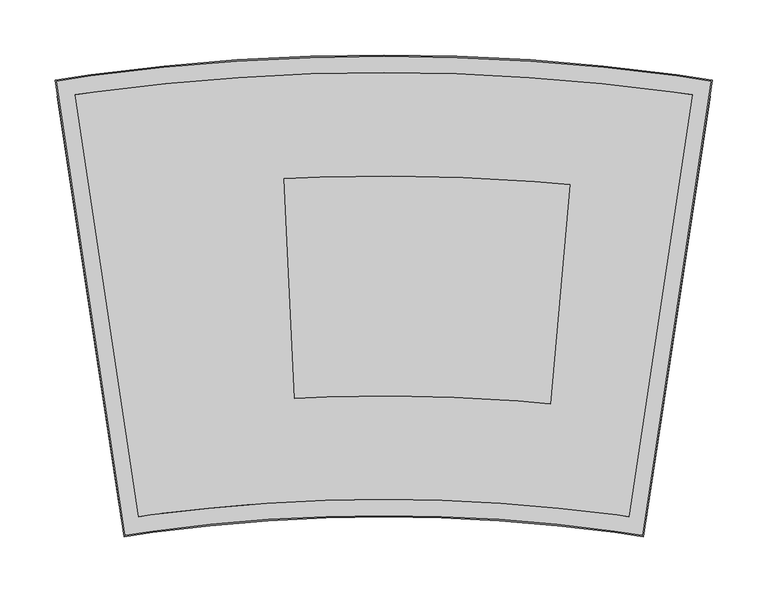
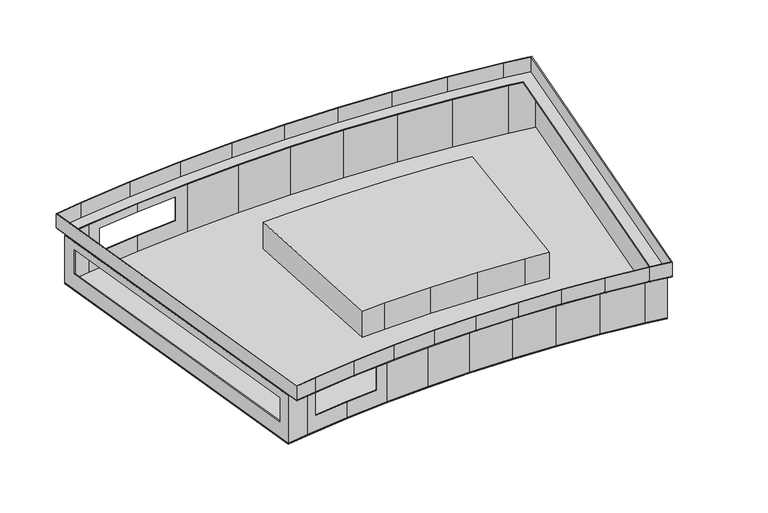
"""IFC4 building model written with IfcOpenShell, lengths in millimetres: proxy geometry, Techno_Конвектор встраиваемый_Usual_KVZ_R-420_85 : KVZ R 420-85_Л."""

from ifc_helpers import new_model, si_unit, frame, origin, place, context, project, spatial, polyline, ellipse_curve, outline, extrude, faceted_brep, source, transform, mapped, element, save
from ifc_brep_helpers import plane_surface, cylinder_surface, advanced_brep


def mechanical_equipment_4430c26b(model_context):
    return source(origin(), model_context, "Body", "SolidModel", [
        extrude(outline(polyline([(669.2728778, 92.4044977), (651.360404, -106.7917455), (622.4134935, -104.1887306), (564.3748988, -100.9764443), (506.2601705, -99.7617004), (448.1380385, -100.5459354), (419.10764, -101.9370787), (409.5345797, 97.8336812), (442.0005282, 99.3894568), (507.0010191, 100.2665008), (571.99323, 98.9080002), (636.9002974, 95.3155616), (669.2728778, 92.4044977)])), frame((0.0, 0.0, -65.3), z_axis=(0.0, 0.0, 1.0), x_axis=(1.0, 0.0, 0.0)), (0.0, 0.0, 1.0), 35.0),
        extrude(outline(polyline([(796.6645806, 172.9083439), (738.3239337, -213.1078849), (712.0399647, -209.1354515), (659.2364485, -202.9469383), (606.2560194, -198.5216541), (553.1575389, -195.8645154), (500.0, -194.9784744), (446.8424611, -195.8645154), (393.7439806, -198.5216541), (340.7635515, -202.9469383), (287.9600353, -209.1354515), (261.6760663, -213.1078849), (203.3354194, 172.9083439), (236.053588, 177.8532115), (301.7831718, 185.5566454), (367.7329761, 191.0652197), (433.8297302, 194.3728142), (500.0, 195.4757541), (566.1702698, 194.3728142), (632.2670239, 191.0652197), (698.2168282, 185.5566454), (763.946412, 177.8532115), (796.6645806, 172.9083439)])), frame((0.0, 0.0, -85.0), z_axis=(0.0, 0.0, 1.0), x_axis=(1.0, 0.0, 0.0)), (0.0, 0.0, 1.0), 1.2),
        faceted_brep([(203.3354194, 172.9083439, -20.5), (203.3354194, 172.9083439, -85.0), (261.6760663, -213.1078849, -85.0), (261.6760663, -213.1078849, -20.5), (205.8310362, 156.3958669, -31.0), (259.4793258, -198.5729501, -31.0), (259.4793258, -198.5729501, -63.0), (205.8310362, 156.3958669, -63.0), (738.3239337, -213.1078849, -20.5), (738.3239337, -213.1078849, -85.0), (796.6645806, 172.9083439, -85.0), (796.6645806, 172.9083439, -20.5), (204.7012705, 171.9011444, -85.0), (204.7012705, 171.9011444, -20.5), (262.6832659, -211.7420339, -20.5), (262.6832659, -211.7420339, -85.0), (260.6658511, -198.3936243, -31.0), (207.0175615, 156.5751927, -31.0), (207.0175615, 156.5751927, -63.0), (260.6658511, -198.3936243, -63.0), (737.3167341, -211.7420339, -85.0), (737.3167341, -211.7420339, -20.5), (795.2987295, 171.9011444, -20.5), (795.2987295, 171.9011444, -85.0), (287.9600353, -209.1354515, -85.0), (287.9600353, -209.1354515, -20.5), (287.7807096, -207.9489262, -20.5), (287.7807096, -207.9489262, -85.0), (340.7635515, -202.9469383, -85.0), (340.7635515, -202.9469383, -63.0), (298.655358, -207.8819716, -63.0), (298.655358, -207.8819716, -31.0), (340.7635515, -202.9469383, -31.0), (340.7635515, -202.9469383, -20.5), (340.6238688, -201.7550957, -20.5), (340.6238688, -201.7550957, -31.0), (298.5038571, -206.6915141, -31.0), (298.5038571, -206.6915141, -63.0), (340.6238688, -201.7550957, -63.0), (340.6238688, -201.7550957, -85.0), (393.7439806, -198.5216541, -85.0), (393.7439806, -198.5216541, -20.5), (381.0009219, -199.5860406, -31.0), (381.0009219, -199.5860406, -63.0), (393.6440963, -197.3258183, -20.5), (393.6440963, -197.3258183, -85.0), (380.9113816, -198.3893409, -63.0), (380.9113816, -198.3893409, -31.0), (446.8424611, -195.8645154, -85.0), (446.8424611, -195.8645154, -20.5), (446.7824861, -194.6660151, -20.5), (446.7824861, -194.6660151, -85.0), (500.0, -194.9784744, -85.0), (500.0, -194.9784744, -20.5), (499.9800009, -193.778641, -20.5), (499.9800009, -193.778641, -85.0), (553.1575389, -195.8645154, -85.0), (553.1575389, -195.8645154, -20.5), (553.177538, -194.664682, -20.5), (553.177538, -194.664682, -85.0), (606.2560194, -198.5216541, -85.0), (606.2560194, -198.5216541, -20.5), (606.3159944, -197.3231537, -20.5), (606.3159944, -197.3231537, -85.0), (659.2364485, -202.9469383, -85.0), (659.2364485, -202.9469383, -20.5), (659.3363328, -201.7511025, -20.5), (659.3363328, -201.7511025, -85.0), (712.0399647, -209.1354515, -85.0), (712.0399647, -209.1354515, -20.5), (712.1796473, -207.9436089, -20.5), (712.1796473, -207.9436089, -85.0), (763.946412, 177.8532115, -85.0), (763.946412, 177.8532115, -20.5), (763.7670862, 176.6666862, -20.5), (763.7670862, 176.6666862, -85.0), (698.2168282, 185.5566454, -85.0), (698.2168282, 185.5566454, -20.5), (698.0771456, 184.3648028, -20.5), (698.0771456, 184.3648028, -85.0), (632.2670239, 191.0652197, -85.0), (632.2670239, 191.0652197, -20.5), (632.1671396, 189.8693839, -20.5), (632.1671396, 189.8693839, -85.0), (566.1702698, 194.3728142, -85.0), (566.1702698, 194.3728142, -20.5), (566.1102948, 193.1743139, -20.5), (566.1102948, 193.1743139, -85.0), (500.0, 195.4757541, -85.0), (500.0, 195.4757541, -20.5), (499.9800009, 194.2759208, -20.5), (499.9800009, 194.2759208, -85.0), (433.8297302, 194.3728142, -85.0), (433.8297302, 194.3728142, -20.5), (433.8497293, 193.1729808, -20.5), (433.8497293, 193.1729808, -85.0), (367.7329761, 191.0652197, -85.0), (367.7329761, 191.0652197, -20.5), (367.7929511, 189.8667194, -20.5), (367.7929511, 189.8667194, -85.0), (301.7831718, 185.5566454, -85.0), (301.7831718, 185.5566454, -63.0), (351.8704729, 189.740276, -63.0), (351.8704729, 189.740276, -31.0), (301.7831718, 185.5566454, -31.0), (301.7831718, 185.5566454, -20.5), (301.8830561, 184.3608097, -20.5), (301.8830561, 184.3608097, -31.0), (351.9600133, 188.5435763, -31.0), (351.9600133, 188.5435763, -63.0), (301.8830561, 184.3608097, -63.0), (301.8830561, 184.3608097, -85.0), (236.053588, 177.8532115, -85.0), (236.053588, 177.8532115, -20.5), (249.3670785, 179.4135377, -31.0), (249.3670785, 179.4135377, -63.0), (236.1932706, 176.6613689, -20.5), (236.1932706, 176.6613689, -85.0), (249.5185793, 178.2230802, -63.0), (249.5185793, 178.2230802, -31.0)], [[[0, 1, 2, 3], [4, 5, 6, 7]], [[8, 9, 10, 11]], [[12, 13, 14, 15], [16, 17, 18, 19]], [[20, 21, 22, 23]], [[3, 2, 24, 25]], [[15, 14, 26, 27]], [[25, 24, 28, 29, 30, 31, 32, 33]], [[27, 26, 34, 35, 36, 37, 38, 39]], [[28, 40, 41, 33, 32, 42, 43, 29]], [[34, 44, 45, 39, 38, 46, 47, 35]], [[41, 40, 48, 49]], [[45, 44, 50, 51]], [[49, 48, 52, 53]], [[51, 50, 54, 55]], [[53, 52, 56, 57]], [[55, 54, 58, 59]], [[57, 56, 60, 61]], [[59, 58, 62, 63]], [[61, 60, 64, 65]], [[63, 62, 66, 67]], [[65, 64, 68, 69]], [[67, 66, 70, 71]], [[9, 8, 69, 68]], [[21, 20, 71, 70]], [[11, 10, 72, 73]], [[23, 22, 74, 75]], [[73, 72, 76, 77]], [[75, 74, 78, 79]], [[77, 76, 80, 81]], [[79, 78, 82, 83]], [[81, 80, 84, 85]], [[83, 82, 86, 87]], [[85, 84, 88, 89]], [[87, 86, 90, 91]], [[89, 88, 92, 93]], [[91, 90, 94, 95]], [[93, 92, 96, 97]], [[95, 94, 98, 99]], [[97, 96, 100, 101, 102, 103, 104, 105]], [[99, 98, 106, 107, 108, 109, 110, 111]], [[100, 112, 113, 105, 104, 114, 115, 101]], [[106, 116, 117, 111, 110, 118, 119, 107]], [[1, 0, 113, 112]], [[13, 12, 117, 116]], [[0, 3, 25, 33, 41, 49, 53, 57, 61, 65, 69, 8, 11, 73, 77, 81, 85, 89, 93, 97, 105, 113], [14, 13, 116, 106, 98, 94, 90, 86, 82, 78, 74, 22, 21, 70, 66, 62, 58, 54, 50, 44, 34, 26]], [[2, 1, 112, 100, 96, 92, 88, 84, 80, 76, 72, 10, 9, 68, 64, 60, 56, 52, 48, 40, 28, 24], [12, 15, 27, 39, 45, 51, 55, 59, 63, 67, 71, 20, 23, 75, 79, 83, 87, 91, 95, 99, 111, 117]], [[4, 17, 16, 5]], [[6, 19, 18, 7]], [[19, 6, 5, 16]], [[17, 4, 7, 18]], [[42, 47, 46, 43]], [[108, 103, 102, 109]], [[43, 46, 38, 37, 30, 29]], [[109, 102, 101, 115, 118, 110]], [[47, 42, 32, 31, 36, 35]], [[103, 108, 107, 119, 114, 104]], [[30, 37, 36, 31]], [[118, 115, 114, 119]]]),
        advanced_brep(
        [(780.6649176, 174.1128287, -19.3), (780.6649176, 174.1128287, -20.5), (722.6829222, -209.5303495, -20.5), (722.6829222, -209.5303495, -19.3), (797.5104139, 186.5349563, 0.0), (797.5104139, 186.5349563, -19.3), (735.1050498, -226.3758458, -19.3), (735.1050498, -226.3758458, 0.0), (798.8762649, 187.5421559, -18.5), (798.8762649, 187.5421559, 0.0), (736.1122493, -227.7416969, 0.0), (736.1122493, -227.7416969, -18.5), (277.3170778, -209.5303495, -19.3), (277.3170778, -209.5303495, -20.5), (219.3350824, 174.1128287, -20.5), (219.3350824, 174.1128287, -19.3), (264.8949502, -226.3758458, 0.0), (264.8949502, -226.3758458, -19.3), (202.4895861, 186.5349563, -19.3), (202.4895861, 186.5349563, 0.0), (263.8877507, -227.7416969, -18.5), (263.8877507, -227.7416969, 0.0), (201.1237351, 187.5421559, 0.0), (201.1237351, 187.5421559, -18.5), (796.5998465, 185.86349, -20.5), (734.4335834, -225.4652784, -20.5), (265.5664166, -225.4652784, -20.5), (203.4001535, 185.86349, -20.5), (234.0858231, 192.5238882, -18.5), (234.3517373, 190.5413643, -20.5), (236.2131365, 176.6636971, -20.5), (236.2131365, 176.6636971, -19.3), (234.2453716, 191.3343739, -19.3), (234.2453716, 191.3343739, 0.0), (234.0858231, 192.5238882, 0.0), (300.305432, 200.2847526, -18.5), (300.5051266, 198.2944678, -20.5), (301.9029885, 184.3624746, -20.5), (301.9029885, 184.3624746, -19.3), (300.4252487, 199.0905817, -19.3), (300.4252487, 199.0905817, 0.0), (300.305432, 200.2847526, 0.0), (710.0721998, -223.8061283, -18.5), (710.3381139, -221.8236044, -20.5), (712.1995132, -207.9459372, -20.5), (712.1995132, -207.9459372, -19.3), (710.2317483, -222.616614, -19.3), (710.2317483, -222.616614, 0.0), (710.0721998, -223.8061283, 0.0), (657.7587087, -217.6750454, -18.5), (657.9584033, -215.6847607, -20.5), (659.3562653, -201.7527674, -20.5), (659.3562653, -201.7527674, -19.3), (657.8785255, -216.4808746, -19.3), (657.8785255, -216.4808746, 0.0), (657.7587087, -217.6750454, 0.0), (366.7469032, 205.8343942, -18.5), (366.8801563, 203.8385598, -20.5), (367.812928, 189.8677191, -20.5), (367.812928, 189.8677191, -19.3), (366.8268551, 204.6368936, -19.3), (366.8268551, 204.6368936, 0.0), (366.7469032, 205.8343942, 0.0), (605.2699465, -213.2908286, -18.5), (605.4031996, -211.2949942, -20.5), (606.3359712, -197.3241534, -20.5), (606.3359712, -197.3241534, -19.3), (605.3498983, -212.0933279, -19.3), (605.3498983, -212.0933279, 0.0), (605.2699465, -213.2908286, 0.0), (433.3364197, 209.1666474, -18.5), (433.4030833, 207.1674807, -20.5), (433.8697284, 193.1733142, -20.5), (433.8697284, 193.1733142, -19.3), (433.3764179, 207.9671474, -19.3), (433.3764179, 207.9671474, 0.0), (433.3364197, 209.1666474, 0.0), (500.0, 210.2778099, -18.5), (500.0, 208.2775321, -20.5), (500.0, 194.2755875, -20.5), (500.0, 194.2755875, -19.3), (500.0, 209.0776432, -19.3), (500.0, 209.0776432, 0.0), (500.0, 210.2778099, 0.0), (552.6642284, -210.6583486, -18.5), (552.730892, -208.6591819, -20.5), (553.1975371, -194.6650154, -20.5), (553.1975371, -194.6650154, -19.3), (552.7042266, -209.4588486, -19.3), (552.7042266, -209.4588486, 0.0), (552.6642284, -210.6583486, 0.0), (500.0, -209.7805302, -18.5), (500.0, -207.7802523, -20.5), (500.0, -193.7783077, -20.5), (500.0, -193.7783077, -19.3), (500.0, -208.5803635, -19.3), (500.0, -208.5803635, 0.0), (500.0, -209.7805302, 0.0), (566.6635803, 209.1666474, -18.5), (566.5969167, 207.1674807, -20.5), (566.1302716, 193.1733142, -20.5), (566.1302716, 193.1733142, -19.3), (566.6235821, 207.9671474, -19.3), (566.6235821, 207.9671474, 0.0), (566.6635803, 209.1666474, 0.0), (633.2530968, 205.8343942, -18.5), (633.1198437, 203.8385598, -20.5), (632.187072, 189.8677191, -20.5), (632.187072, 189.8677191, -19.3), (633.1731449, 204.6368936, -19.3), (633.1731449, 204.6368936, 0.0), (633.2530968, 205.8343942, 0.0), (699.694568, 200.2847526, -18.5), (699.4948734, 198.2944678, -20.5), (698.0970115, 184.3624746, -20.5), (698.0970115, 184.3624746, -19.3), (699.5747513, 199.0905817, -19.3), (699.5747513, 199.0905817, 0.0), (699.694568, 200.2847526, 0.0), (765.9141769, 192.5238882, -18.5), (765.6482627, 190.5413643, -20.5), (763.7868635, 176.6636971, -20.5), (763.7868635, 176.6636971, -19.3), (765.7546284, 191.3343739, -19.3), (765.7546284, 191.3343739, 0.0), (765.9141769, 192.5238882, 0.0), (447.3357716, -210.6583486, -18.5), (447.269108, -208.6591819, -20.5), (446.8024629, -194.6650154, -20.5), (446.8024629, -194.6650154, -19.3), (447.2957734, -209.4588486, -19.3), (447.2957734, -209.4588486, 0.0), (447.3357716, -210.6583486, 0.0), (394.7300535, -213.2908286, -18.5), (394.5968004, -211.2949942, -20.5), (393.6640288, -197.3241534, -20.5), (393.6640288, -197.3241534, -19.3), (394.6501017, -212.0933279, -19.3), (394.6501017, -212.0933279, 0.0), (394.7300535, -213.2908286, 0.0), (342.2412913, -217.6750454, -18.5), (342.0415967, -215.6847607, -20.5), (340.6437347, -201.7527674, -20.5), (340.6437347, -201.7527674, -19.3), (342.1214745, -216.4808746, -19.3), (342.1214745, -216.4808746, 0.0), (342.2412913, -217.6750454, 0.0), (289.9278002, -223.8061283, -18.5), (289.6618861, -221.8236044, -20.5), (287.8004868, -207.9459372, -20.5), (287.8004868, -207.9459372, -19.3), (289.7682517, -222.616614, -19.3), (289.7682517, -222.616614, 0.0), (289.9278002, -223.8061283, 0.0)],
        [
            (0, 1),
            (1, 2),
            (2, 3),
            (3, 0),
            (4, 5),
            (5, 6),
            (6, 7),
            (7, 4),
            (8, 9),
            (9, 10),
            (10, 11),
            (11, 8),
            (12, 13),
            (13, 14),
            (14, 15),
            (15, 12),
            (16, 17),
            (17, 18),
            (18, 19),
            (19, 16),
            (20, 21),
            (21, 22),
            (22, 23),
            (23, 20),
            (24, 8, ellipse_curve(frame((796.5998465, 185.86349, -18.5), z_axis=(0.593498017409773, -0.8048354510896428, 0.0), x_axis=(0.8048354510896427, 0.5934980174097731, 0.0)), 2.8284271, 2.0)),
            (11, 25, ellipse_curve(frame((734.4335834, -225.4652784, -18.5), z_axis=(0.8048354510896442, 0.5934980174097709, 0.0), x_axis=(-0.5934980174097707, 0.8048354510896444, 0.0)), 2.8284271, 2.0)),
            (25, 24),
            (26, 20, ellipse_curve(frame((265.5664166, -225.4652784, -18.5), z_axis=(-0.8048354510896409, 0.5934980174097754, 0.0), x_axis=(-0.5934980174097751, -0.804835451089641, 0.0)), 2.8284271, 2.0)),
            (23, 27, ellipse_curve(frame((203.4001535, 185.86349, -18.5), z_axis=(-0.59349801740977, -0.8048354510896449, 0.0), x_axis=(0.8048354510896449, -0.5934980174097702, 0.0)), 2.8284271, 2.0)),
            (27, 26),
            (23, 28),
            (28, 29, ellipse_curve(frame((234.3517373, 190.5413643, -18.5), z_axis=(-0.9911242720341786, -0.1329386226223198, 0.0), x_axis=(0.13293862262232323, -0.991124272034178, 0.0)), 2.0002778, 2.0)),
            (29, 27),
            (14, 30),
            (30, 31),
            (31, 15),
            (18, 32),
            (32, 33),
            (33, 19),
            (22, 34),
            (34, 28),
            (28, 35),
            (35, 36, ellipse_curve(frame((300.5051266, 198.2944678, -18.5), z_axis=(-0.9950041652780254, -0.0998334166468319, 0.0), x_axis=(0.0998334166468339, -0.9950041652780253, 0.0)), 2.0002778, 2.0)),
            (36, 29),
            (30, 37),
            (37, 38),
            (38, 31),
            (32, 39),
            (39, 40),
            (40, 33),
            (34, 41),
            (41, 35),
            (11, 42),
            (42, 43, ellipse_curve(frame((710.3381139, -221.8236044, -18.5), z_axis=(0.9911242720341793, -0.1329386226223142, 0.0), x_axis=(-0.13293862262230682, -0.9911242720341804, 0.0)), 2.0002778, 2.0)),
            (43, 25),
            (2, 44),
            (44, 45),
            (45, 3),
            (6, 46),
            (46, 47),
            (47, 7),
            (10, 48),
            (48, 42),
            (42, 49),
            (49, 50, ellipse_curve(frame((657.9584033, -215.6847607, -18.5), z_axis=(0.9950041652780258, -0.09983341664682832, 0.0), x_axis=(-0.09983341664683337, -0.9950041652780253, 0.0)), 2.0002778, 2.0)),
            (50, 43),
            (44, 51),
            (51, 52),
            (52, 45),
            (46, 53),
            (53, 54),
            (54, 47),
            (48, 55),
            (55, 49),
            (35, 56),
            (56, 57, ellipse_curve(frame((366.8801563, 203.8385598, -18.5), z_axis=(-0.9977786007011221, -0.06661729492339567, 0.0), x_axis=(0.06661729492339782, -0.9977786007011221, 0.0)), 2.0002778, 2.0)),
            (57, 36),
            (37, 58),
            (58, 59),
            (59, 38),
            (39, 60),
            (60, 61),
            (61, 40),
            (41, 62),
            (62, 56),
            (49, 63),
            (63, 64, ellipse_curve(frame((605.4031996, -211.2949942, -18.5), z_axis=(0.9977786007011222, -0.0666172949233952, 0.0), x_axis=(-0.06661729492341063, -0.9977786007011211, 0.0)), 2.0002778, 2.0)),
            (64, 50),
            (51, 65),
            (65, 66),
            (66, 52),
            (53, 67),
            (67, 68),
            (68, 54),
            (55, 69),
            (69, 63),
            (56, 70),
            (70, 71, ellipse_curve(frame((433.4030833, 207.1674807, -18.5), z_axis=(-0.9994444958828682, -0.03332716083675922, 0.0), x_axis=(0.03332716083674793, -0.9994444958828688, 0.0)), 2.0002778, 2.0)),
            (71, 57),
            (58, 72),
            (72, 73),
            (73, 59),
            (60, 74),
            (74, 75),
            (75, 61),
            (62, 76),
            (76, 70),
            (70, 77),
            (77, 78, ellipse_curve(frame((500.0, 208.2775321, -18.5), z_axis=(-1.0, 0.0, 0.0), x_axis=(0.0, -1.0, 0.0)), 2.0002778, 2.0)),
            (78, 71),
            (72, 79),
            (79, 80),
            (80, 73),
            (74, 81),
            (81, 82),
            (82, 75),
            (76, 83),
            (83, 77),
            (63, 84),
            (84, 85, ellipse_curve(frame((552.730892, -208.6591819, -18.5), z_axis=(0.9994444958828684, -0.03332716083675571, 0.0), x_axis=(-0.03332716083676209, -0.9994444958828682, 0.0)), 2.0002778, 2.0)),
            (85, 64),
            (65, 86),
            (86, 87),
            (87, 66),
            (67, 88),
            (88, 89),
            (89, 68),
            (69, 90),
            (90, 84),
            (84, 91),
            (91, 92, ellipse_curve(frame((500.0, -207.7802523, -18.5), z_axis=(1.0, 0.0, 0.0), x_axis=(0.0, -1.0, 0.0)), 2.0002778, 2.0)),
            (92, 85),
            (86, 93),
            (93, 94),
            (94, 87),
            (88, 95),
            (95, 96),
            (96, 89),
            (90, 97),
            (97, 91),
            (77, 98),
            (98, 99, ellipse_curve(frame((566.5969167, 207.1674807, -18.5), z_axis=(-0.9994444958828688, 0.03332716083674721, 0.0), x_axis=(-0.033327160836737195, -0.999444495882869, 0.0)), 2.0002778, 2.0)),
            (99, 78),
            (79, 100),
            (100, 101),
            (101, 80),
            (81, 102),
            (102, 103),
            (103, 82),
            (83, 104),
            (104, 98),
            (98, 105),
            (105, 106, ellipse_curve(frame((633.1198437, 203.8385598, -18.5), z_axis=(-0.9977786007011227, 0.06661729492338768, 0.0), x_axis=(-0.06661729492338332, -0.997778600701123, 0.0)), 2.0002778, 2.0)),
            (106, 99),
            (100, 107),
            (107, 108),
            (108, 101),
            (102, 109),
            (109, 110),
            (110, 103),
            (104, 111),
            (111, 105),
            (105, 112),
            (112, 113, ellipse_curve(frame((699.4948734, 198.2944678, -18.5), z_axis=(-0.9950041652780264, 0.09983341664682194, 0.0), x_axis=(-0.09983341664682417, -0.9950041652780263, 0.0)), 2.0002778, 2.0)),
            (113, 106),
            (107, 114),
            (114, 115),
            (115, 108),
            (109, 116),
            (116, 117),
            (117, 110),
            (111, 118),
            (118, 112),
            (112, 119),
            (119, 120, ellipse_curve(frame((765.6482627, 190.5413643, -18.5), z_axis=(-0.9911242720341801, 0.13293862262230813, 0.0), x_axis=(-0.13293862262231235, -0.9911242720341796, 0.0)), 2.0002778, 2.0)),
            (120, 113),
            (114, 121),
            (121, 122),
            (122, 115),
            (116, 123),
            (123, 124),
            (124, 117),
            (118, 125),
            (125, 119),
            (119, 8),
            (24, 120),
            (121, 1),
            (0, 122),
            (123, 5),
            (4, 124),
            (125, 9),
            (91, 126),
            (126, 127, ellipse_curve(frame((447.269108, -208.6591819, -18.5), z_axis=(0.9994444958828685, 0.03332716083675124, 0.0), x_axis=(0.033327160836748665, -0.9994444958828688, 0.0)), 2.0002778, 2.0)),
            (127, 92),
            (93, 128),
            (128, 129),
            (129, 94),
            (95, 130),
            (130, 131),
            (131, 96),
            (97, 132),
            (132, 126),
            (126, 133),
            (133, 134, ellipse_curve(frame((394.5968004, -211.2949942, -18.5), z_axis=(0.9977786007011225, 0.06661729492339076, 0.0), x_axis=(0.06661729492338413, -0.9977786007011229, 0.0)), 2.0002778, 2.0)),
            (134, 127),
            (128, 135),
            (135, 136),
            (136, 129),
            (130, 137),
            (137, 138),
            (138, 131),
            (132, 139),
            (139, 133),
            (133, 140),
            (140, 141, ellipse_curve(frame((342.0415967, -215.6847607, -18.5), z_axis=(0.9950041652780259, 0.09983341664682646, 0.0), x_axis=(0.09983341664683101, -0.9950041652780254, 0.0)), 2.0002778, 2.0)),
            (141, 134),
            (135, 142),
            (142, 143),
            (143, 136),
            (137, 144),
            (144, 145),
            (145, 138),
            (139, 146),
            (146, 140),
            (140, 147),
            (147, 148, ellipse_curve(frame((289.6618861, -221.8236044, -18.5), z_axis=(0.99112427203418, 0.1329386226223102, 0.0), x_axis=(0.13293862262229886, -0.9911242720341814, 0.0)), 2.0002778, 2.0)),
            (148, 141),
            (142, 149),
            (149, 150),
            (150, 143),
            (144, 151),
            (151, 152),
            (152, 145),
            (146, 153),
            (153, 147),
            (147, 20),
            (26, 148),
            (13, 149),
            (12, 150),
            (17, 151),
            (16, 152),
            (21, 153),
        ],
        [
            plane_surface(frame((780.6649176, 174.1128287, -20.5), z_axis=(-0.9887710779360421, 0.1494381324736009, 0.0), x_axis=(-0.1494381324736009, -0.9887710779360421, 0.0))),
            plane_surface(frame((797.5104139, 186.5349563, -19.3), z_axis=(-0.9887710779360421, 0.1494381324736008, 0.0), x_axis=(-0.1494381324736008, -0.9887710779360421, 0.0))),
            plane_surface(frame((798.8762649, 187.5421559, 0.0), z_axis=(0.9887710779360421, -0.14943813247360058, 0.0), x_axis=(-0.14943813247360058, -0.9887710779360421, 0.0))),
            plane_surface(frame((277.3170778, -209.5303495, -20.5), z_axis=(0.9887710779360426, 0.14943813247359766, 0.0), x_axis=(-0.14943813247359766, 0.9887710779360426, 0.0))),
            plane_surface(frame((264.8949502, -226.3758458, -19.3), z_axis=(0.9887710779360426, 0.14943813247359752, 0.0), x_axis=(-0.14943813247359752, 0.9887710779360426, 0.0))),
            plane_surface(frame((263.8877507, -227.7416969, 0.0), z_axis=(-0.9887710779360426, -0.1494381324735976, 0.0), x_axis=(-0.1494381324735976, 0.9887710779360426, 0.0))),
            cylinder_surface(frame((796.8987228, 187.8410321, -18.5), z_axis=(0.14943813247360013, 0.9887710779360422, 0.0), x_axis=(0.9887710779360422, -0.14943813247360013, 0.0)), 2.0),
            cylinder_surface(frame((265.8652928, -227.4428206, -18.5), z_axis=(0.1494381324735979, -0.9887710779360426, 0.0), x_axis=(-0.9887710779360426, -0.1494381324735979, 0.0)), 2.0),
            cylinder_surface(frame((201.4226113, 185.5646137, -18.5), z_axis=(-0.9887710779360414, -0.14943813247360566, 0.0), x_axis=(-0.14943813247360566, 0.9887710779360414, 0.0)), 2.0),
            plane_surface(frame((219.3350824, 174.1128287, -20.5), z_axis=(0.1494381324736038, -0.9887710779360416, 0.0), x_axis=(0.9887710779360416, 0.1494381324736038, 0.0))),
            plane_surface(frame((202.4895861, 186.5349563, -19.3), z_axis=(0.14943813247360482, -0.9887710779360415, 0.0), x_axis=(0.9887710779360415, 0.14943813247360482, 0.0))),
            plane_surface(frame((201.1237351, 187.5421559, 0.0), z_axis=(-0.14943813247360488, 0.9887710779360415, 0.0), x_axis=(0.9887710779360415, 0.14943813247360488, 0.0))),
            cylinder_surface(frame((234.3186275, 190.5374839, -18.5), z_axis=(-0.9932021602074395, -0.11640218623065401, 0.0), x_axis=(-0.11640218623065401, 0.9932021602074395, 0.0)), 2.0),
            plane_surface(frame((236.2131365, 176.6636971, -20.5), z_axis=(0.11640218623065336, -0.9932021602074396, 0.0), x_axis=(0.9932021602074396, 0.11640218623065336, 0.0))),
            plane_surface(frame((234.2453716, 191.3343739, -19.3), z_axis=(0.11640218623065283, -0.9932021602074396, 0.0), x_axis=(0.9932021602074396, 0.11640218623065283, 0.0))),
            plane_surface(frame((234.0858231, 192.5238882, 0.0), z_axis=(-0.11640218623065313, 0.9932021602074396, 0.0), x_axis=(0.9932021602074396, 0.11640218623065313, 0.0))),
            cylinder_surface(frame((736.4111256, -225.7641547, -18.5), z_axis=(0.988771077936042, -0.14943813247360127, 0.0), x_axis=(-0.14943813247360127, -0.988771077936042, 0.0)), 2.0),
            plane_surface(frame((722.6829222, -209.5303495, -20.5), z_axis=(0.14943813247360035, 0.9887710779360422, 0.0), x_axis=(-0.9887710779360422, 0.14943813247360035, 0.0))),
            plane_surface(frame((735.1050498, -226.3758458, -19.3), z_axis=(0.14943813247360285, 0.9887710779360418, 0.0), x_axis=(-0.9887710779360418, 0.14943813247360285, 0.0))),
            plane_surface(frame((736.1122493, -227.7416969, 0.0), z_axis=(-0.1494381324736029, -0.9887710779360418, 0.0), x_axis=(-0.9887710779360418, 0.1494381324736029, 0.0))),
            cylinder_surface(frame((710.3050041, -221.819724, -18.5), z_axis=(0.9932021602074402, -0.1164021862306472, 0.0), x_axis=(-0.1164021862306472, -0.9932021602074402, 0.0)), 2.0),
            plane_surface(frame((712.1995132, -207.9459372, -20.5), z_axis=(0.11640218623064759, 0.9932021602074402, 0.0), x_axis=(-0.9932021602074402, 0.11640218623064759, 0.0))),
            plane_surface(frame((710.2317483, -222.616614, -19.3), z_axis=(0.11640218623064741, 0.9932021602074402, 0.0), x_axis=(-0.9932021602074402, 0.11640218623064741, 0.0))),
            plane_surface(frame((710.0721998, -223.8061283, 0.0), z_axis=(-0.11640218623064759, -0.9932021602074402, 0.0), x_axis=(-0.9932021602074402, 0.11640218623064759, 0.0))),
            cylinder_surface(frame((300.4719058, 198.291693, -18.5), z_axis=(-0.9965297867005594, -0.08323691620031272, 0.0), x_axis=(-0.08323691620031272, 0.9965297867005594, 0.0)), 2.0),
            plane_surface(frame((301.9029885, 184.3624746, -20.5), z_axis=(0.08323691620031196, -0.9965297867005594, 0.0), x_axis=(0.9965297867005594, 0.08323691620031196, 0.0))),
            plane_surface(frame((300.4252487, 199.0905817, -19.3), z_axis=(0.08323691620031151, -0.9965297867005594, 0.0), x_axis=(0.9965297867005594, 0.08323691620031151, 0.0))),
            plane_surface(frame((300.305432, 200.2847526, 0.0), z_axis=(-0.08323691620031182, 0.9965297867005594, 0.0), x_axis=(0.9965297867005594, 0.08323691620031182, 0.0))),
            cylinder_surface(frame((657.9251826, -215.6819859, -18.5), z_axis=(0.9965297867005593, -0.08323691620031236, 0.0), x_axis=(-0.08323691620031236, -0.9965297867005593, 0.0)), 2.0),
            plane_surface(frame((659.3562653, -201.7527674, -20.5), z_axis=(0.08323691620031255, 0.9965297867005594, 0.0), x_axis=(-0.9965297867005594, 0.08323691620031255, 0.0))),
            plane_surface(frame((657.8785255, -216.4808746, -19.3), z_axis=(0.08323691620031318, 0.9965297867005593, 0.0), x_axis=(-0.9965297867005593, 0.08323691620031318, 0.0))),
            plane_surface(frame((657.7587087, -217.6750454, 0.0), z_axis=(-0.08323691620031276, -0.9965297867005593, 0.0), x_axis=(-0.9965297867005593, 0.08323691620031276, 0.0))),
            cylinder_surface(frame((366.8468615, 203.8368937, -18.5), z_axis=(-0.9987502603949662, -0.04997916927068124, 0.0), x_axis=(-0.04997916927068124, 0.9987502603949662, 0.0)), 2.0),
            plane_surface(frame((367.812928, 189.8677191, -20.5), z_axis=(0.04997916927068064, -0.9987502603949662, 0.0), x_axis=(0.9987502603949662, 0.04997916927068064, 0.0))),
            plane_surface(frame((366.8268551, 204.6368936, -19.3), z_axis=(0.04997916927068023, -0.9987502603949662, 0.0), x_axis=(0.9987502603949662, 0.04997916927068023, 0.0))),
            plane_surface(frame((366.7469032, 205.8343942, 0.0), z_axis=(-0.04997916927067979, 0.9987502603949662, 0.0), x_axis=(0.9987502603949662, 0.04997916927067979, 0.0))),
            cylinder_surface(frame((433.3697515, 207.1669251, -18.5), z_axis=(-0.9998611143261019, -0.016665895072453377, 0.0), x_axis=(-0.016665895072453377, 0.9998611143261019, 0.0)), 2.0),
            plane_surface(frame((433.8697284, 193.1733142, -20.5), z_axis=(0.01666589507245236, -0.9998611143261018, 0.0), x_axis=(0.9998611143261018, 0.01666589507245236, 0.0))),
            plane_surface(frame((433.3764179, 207.9671474, -19.3), z_axis=(0.016665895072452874, -0.9998611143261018, 0.0), x_axis=(0.9998611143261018, 0.016665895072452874, 0.0))),
            plane_surface(frame((433.3364197, 209.1666474, 0.0), z_axis=(-0.016665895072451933, 0.9998611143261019, 0.0), x_axis=(0.9998611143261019, 0.016665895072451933, 0.0))),
            cylinder_surface(frame((605.3699048, -211.2933281, -18.5), z_axis=(0.9987502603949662, -0.04997916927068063, 0.0), x_axis=(-0.04997916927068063, -0.9987502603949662, 0.0)), 2.0),
            plane_surface(frame((606.3359712, -197.3241534, -20.5), z_axis=(0.049979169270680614, 0.9987502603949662, 0.0), x_axis=(-0.9987502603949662, 0.049979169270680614, 0.0))),
            plane_surface(frame((605.3498983, -212.0933279, -19.3), z_axis=(0.049979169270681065, 0.9987502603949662, 0.0), x_axis=(-0.9987502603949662, 0.049979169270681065, 0.0))),
            plane_surface(frame((605.2699465, -213.2908286, 0.0), z_axis=(-0.04997916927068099, -0.9987502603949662, 0.0), x_axis=(-0.9987502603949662, 0.04997916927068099, 0.0))),
            cylinder_surface(frame((552.6975602, -208.6586263, -18.5), z_axis=(0.9998611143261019, -0.016665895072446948, 0.0), x_axis=(-0.016665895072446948, -0.9998611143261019, 0.0)), 2.0),
            plane_surface(frame((553.1975371, -194.6650154, -20.5), z_axis=(0.016665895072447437, 0.9998611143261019, 0.0), x_axis=(-0.9998611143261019, 0.016665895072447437, 0.0))),
            plane_surface(frame((552.7042266, -209.4588486, -19.3), z_axis=(0.016665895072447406, 0.9998611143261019, 0.0), x_axis=(-0.9998611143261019, 0.016665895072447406, 0.0))),
            plane_surface(frame((552.6642284, -210.6583486, 0.0), z_axis=(-0.016665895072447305, -0.9998611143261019, 0.0), x_axis=(-0.9998611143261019, 0.016665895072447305, 0.0))),
            cylinder_surface(frame((499.9666682, 208.2780877, -18.5), z_axis=(-0.999861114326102, 0.01666589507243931, 0.0), x_axis=(0.01666589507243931, 0.999861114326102, 0.0)), 2.0),
            plane_surface(frame((500.0, 194.2755875, -20.5), z_axis=(-0.016665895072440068, -0.9998611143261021, 0.0), x_axis=(0.9998611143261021, -0.016665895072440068, 0.0))),
            plane_surface(frame((500.0, 209.0776432, -19.3), z_axis=(-0.016665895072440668, -0.999861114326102, 0.0), x_axis=(0.999861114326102, -0.016665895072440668, 0.0))),
            plane_surface(frame((500.0, 210.2778099, 0.0), z_axis=(0.016665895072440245, 0.999861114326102, 0.0), x_axis=(0.999861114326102, -0.016665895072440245, 0.0))),
            cylinder_surface(frame((566.563622, 207.1691469, -18.5), z_axis=(-0.9987502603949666, 0.04997916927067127, 0.0), x_axis=(0.04997916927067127, 0.9987502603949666, 0.0)), 2.0),
            plane_surface(frame((566.1302716, 193.1733142, -20.5), z_axis=(-0.049979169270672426, -0.9987502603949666, 0.0), x_axis=(0.9987502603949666, -0.049979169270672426, 0.0))),
            plane_surface(frame((566.6235821, 207.9671474, -19.3), z_axis=(-0.04997916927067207, -0.9987502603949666, 0.0), x_axis=(0.9987502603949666, -0.04997916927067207, 0.0))),
            plane_surface(frame((566.6635803, 209.1666474, 0.0), z_axis=(0.0499791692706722, 0.9987502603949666, 0.0), x_axis=(0.9987502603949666, -0.0499791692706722, 0.0))),
            cylinder_surface(frame((633.086623, 203.8413346, -18.5), z_axis=(-0.9965297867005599, 0.08323691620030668, 0.0), x_axis=(0.08323691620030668, 0.9965297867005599, 0.0)), 2.0),
            plane_surface(frame((632.187072, 189.8677191, -20.5), z_axis=(-0.08323691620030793, -0.9965297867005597, 0.0), x_axis=(0.9965297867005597, -0.08323691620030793, 0.0))),
            plane_surface(frame((633.1731449, 204.6368936, -19.3), z_axis=(-0.08323691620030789, -0.9965297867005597, 0.0), x_axis=(0.9965297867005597, -0.08323691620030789, 0.0))),
            plane_surface(frame((633.2530968, 205.8343942, 0.0), z_axis=(0.08323691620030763, 0.9965297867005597, 0.0), x_axis=(0.9965297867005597, -0.08323691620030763, 0.0))),
            cylinder_surface(frame((699.4617636, 198.2983483, -18.5), z_axis=(-0.993202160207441, 0.1164021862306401, 0.0), x_axis=(0.1164021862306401, 0.993202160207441, 0.0)), 2.0),
            plane_surface(frame((698.0970115, 184.3624746, -20.5), z_axis=(-0.11640218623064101, -0.993202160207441, 0.0), x_axis=(0.993202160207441, -0.11640218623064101, 0.0))),
            plane_surface(frame((699.5747513, 199.0905817, -19.3), z_axis=(-0.11640218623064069, -0.993202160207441, 0.0), x_axis=(0.993202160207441, -0.11640218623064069, 0.0))),
            plane_surface(frame((699.694568, 200.2847526, 0.0), z_axis=(0.11640218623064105, 0.9932021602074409, 0.0), x_axis=(0.9932021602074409, -0.11640218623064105, 0.0))),
            cylinder_surface(frame((765.6153006, 190.5463461, -18.5), z_axis=(-0.9887710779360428, 0.1494381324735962, 0.0), x_axis=(0.1494381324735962, 0.9887710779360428, 0.0)), 2.0),
            plane_surface(frame((763.7868635, 176.6636971, -20.5), z_axis=(-0.1494381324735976, -0.9887710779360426, 0.0), x_axis=(0.9887710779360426, -0.1494381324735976, 0.0))),
            plane_surface(frame((765.7546284, 191.3343739, -19.3), z_axis=(-0.14943813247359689, -0.9887710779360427, 0.0), x_axis=(0.9887710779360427, -0.14943813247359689, 0.0))),
            plane_surface(frame((765.9141769, 192.5238882, 0.0), z_axis=(0.14943813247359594, 0.9887710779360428, 0.0), x_axis=(0.9887710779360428, -0.14943813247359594, 0.0))),
            cylinder_surface(frame((499.9666682, -207.7808079, -18.5), z_axis=(0.999861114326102, 0.01666589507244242, 0.0), x_axis=(0.01666589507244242, -0.999861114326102, 0.0)), 2.0),
            plane_surface(frame((500.0, -193.7783077, -20.5), z_axis=(-0.01666589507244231, 0.999861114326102, 0.0), x_axis=(-0.999861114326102, -0.01666589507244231, 0.0))),
            plane_surface(frame((500.0, -208.5803635, -19.3), z_axis=(-0.016665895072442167, 0.999861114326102, 0.0), x_axis=(-0.999861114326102, -0.016665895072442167, 0.0))),
            plane_surface(frame((500.0, -209.7805302, 0.0), z_axis=(0.016665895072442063, -0.999861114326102, 0.0), x_axis=(-0.999861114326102, -0.016665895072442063, 0.0))),
            cylinder_surface(frame((447.2358132, -208.6608481, -18.5), z_axis=(0.9987502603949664, 0.049979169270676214, 0.0), x_axis=(0.049979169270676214, -0.9987502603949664, 0.0)), 2.0),
            plane_surface(frame((446.8024629, -194.6650154, -20.5), z_axis=(-0.049979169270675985, 0.9987502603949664, 0.0), x_axis=(-0.9987502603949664, -0.049979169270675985, 0.0))),
            plane_surface(frame((447.2957734, -209.4588486, -19.3), z_axis=(-0.049979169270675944, 0.9987502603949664, 0.0), x_axis=(-0.9987502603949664, -0.049979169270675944, 0.0))),
            plane_surface(frame((447.3357716, -210.6583486, 0.0), z_axis=(0.04997916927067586, -0.9987502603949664, 0.0), x_axis=(-0.9987502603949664, -0.04997916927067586, 0.0))),
            cylinder_surface(frame((394.5635797, -211.297769, -18.5), z_axis=(0.9965297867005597, 0.0832369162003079, 0.0), x_axis=(0.0832369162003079, -0.9965297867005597, 0.0)), 2.0),
            plane_surface(frame((393.6640288, -197.3241534, -20.5), z_axis=(-0.08323691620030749, 0.9965297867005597, 0.0), x_axis=(-0.9965297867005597, -0.08323691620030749, 0.0))),
            plane_surface(frame((394.6501017, -212.0933279, -19.3), z_axis=(-0.08323691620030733, 0.9965297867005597, 0.0), x_axis=(-0.9965297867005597, -0.08323691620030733, 0.0))),
            plane_surface(frame((394.7300535, -213.2908286, 0.0), z_axis=(0.08323691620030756, -0.9965297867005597, 0.0), x_axis=(-0.9965297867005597, -0.08323691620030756, 0.0))),
            cylinder_surface(frame((342.0084869, -215.6886411, -18.5), z_axis=(0.9932021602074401, 0.11640218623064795, 0.0), x_axis=(0.11640218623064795, -0.9932021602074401, 0.0)), 2.0),
            plane_surface(frame((340.6437347, -201.7527674, -20.5), z_axis=(-0.11640218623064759, 0.9932021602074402, 0.0), x_axis=(-0.9932021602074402, -0.11640218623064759, 0.0))),
            plane_surface(frame((342.1214745, -216.4808746, -19.3), z_axis=(-0.11640218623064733, 0.9932021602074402, 0.0), x_axis=(-0.9932021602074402, -0.11640218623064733, 0.0))),
            plane_surface(frame((342.2412913, -217.6750454, 0.0), z_axis=(0.11640218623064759, -0.9932021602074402, 0.0), x_axis=(-0.9932021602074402, -0.11640218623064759, 0.0))),
            cylinder_surface(frame((289.628924, -221.8285861, -18.5), z_axis=(0.9887710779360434, 0.1494381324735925, 0.0), x_axis=(0.1494381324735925, -0.9887710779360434, 0.0)), 2.0),
            plane_surface(frame((289.6618861, -221.8236044, -20.5), z_axis=(0.0, 0.0, -1.0), x_axis=(-0.9887710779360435, -0.1494381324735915, 0.0))),
            plane_surface(frame((287.8004868, -207.9459372, -20.5), z_axis=(-0.149438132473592, 0.9887710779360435, 0.0), x_axis=(-0.9887710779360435, -0.149438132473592, 0.0))),
            plane_surface(frame((287.8004868, -207.9459372, -19.3), z_axis=(0.0, 0.0, 1.0000000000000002), x_axis=(-0.9887710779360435, -0.149438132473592, 0.0))),
            plane_surface(frame((289.7682517, -222.616614, -19.3), z_axis=(-0.14943813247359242, 0.9887710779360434, 0.0), x_axis=(-0.9887710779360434, -0.14943813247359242, 0.0))),
            plane_surface(frame((289.7682517, -222.616614, 0.0), z_axis=(0.0, 0.0, 1.0), x_axis=(-0.9887710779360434, -0.14943813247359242, 0.0))),
            plane_surface(frame((289.9278002, -223.8061283, 0.0), z_axis=(0.14943813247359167, -0.9887710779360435, 0.0), x_axis=(-0.9887710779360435, -0.14943813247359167, 0.0))),
        ],
        [
            (0, [[1, 2, 3, 4]]),
            (1, [[5, 6, 7, 8]]),
            (2, [[9, 10, 11, 12]]),
            (3, [[13, 14, 15, 16]]),
            (4, [[17, 18, 19, 20]]),
            (5, [[21, 22, 23, 24]]),
            (6, [[25, -12, 26, 27]]),
            (7, [[28, -24, 29, 30]]),
            (8, [[-29, 31, 32, 33]]),
            (9, [[-15, 34, 35, 36]]),
            (10, [[-19, 37, 38, 39]]),
            (11, [[-23, 40, 41, -31]]),
            (12, [[-32, 42, 43, 44]]),
            (13, [[-35, 45, 46, 47]]),
            (14, [[-38, 48, 49, 50]]),
            (15, [[-41, 51, 52, -42]]),
            (16, [[-26, 53, 54, 55]]),
            (17, [[-3, 56, 57, 58]]),
            (18, [[-7, 59, 60, 61]]),
            (19, [[-11, 62, 63, -53]]),
            (20, [[-54, 64, 65, 66]]),
            (21, [[-57, 67, 68, 69]]),
            (22, [[-60, 70, 71, 72]]),
            (23, [[-63, 73, 74, -64]]),
            (24, [[-43, 75, 76, 77]]),
            (25, [[-46, 78, 79, 80]]),
            (26, [[-49, 81, 82, 83]]),
            (27, [[-52, 84, 85, -75]]),
            (28, [[-65, 86, 87, 88]]),
            (29, [[-68, 89, 90, 91]]),
            (30, [[-71, 92, 93, 94]]),
            (31, [[-74, 95, 96, -86]]),
            (32, [[-76, 97, 98, 99]]),
            (33, [[-79, 100, 101, 102]]),
            (34, [[-82, 103, 104, 105]]),
            (35, [[-85, 106, 107, -97]]),
            (36, [[-98, 108, 109, 110]]),
            (37, [[-101, 111, 112, 113]]),
            (38, [[-104, 114, 115, 116]]),
            (39, [[-107, 117, 118, -108]]),
            (40, [[-87, 119, 120, 121]]),
            (41, [[-90, 122, 123, 124]]),
            (42, [[-93, 125, 126, 127]]),
            (43, [[-96, 128, 129, -119]]),
            (44, [[-120, 130, 131, 132]]),
            (45, [[-123, 133, 134, 135]]),
            (46, [[-126, 136, 137, 138]]),
            (47, [[-129, 139, 140, -130]]),
            (48, [[-109, 141, 142, 143]]),
            (49, [[-112, 144, 145, 146]]),
            (50, [[-115, 147, 148, 149]]),
            (51, [[-118, 150, 151, -141]]),
            (52, [[-142, 152, 153, 154]]),
            (53, [[-145, 155, 156, 157]]),
            (54, [[-148, 158, 159, 160]]),
            (55, [[-151, 161, 162, -152]]),
            (56, [[-153, 163, 164, 165]]),
            (57, [[-156, 166, 167, 168]]),
            (58, [[-159, 169, 170, 171]]),
            (59, [[-162, 172, 173, -163]]),
            (60, [[-164, 174, 175, 176]]),
            (61, [[-167, 177, 178, 179]]),
            (62, [[-170, 180, 181, 182]]),
            (63, [[-173, 183, 184, -174]]),
            (64, [[-175, 185, -25, 186]]),
            (65, [[-178, 187, -1, 188]]),
            (66, [[-181, 189, -5, 190]]),
            (67, [[-184, 191, -9, -185]]),
            (68, [[-131, 192, 193, 194]]),
            (69, [[-134, 195, 196, 197]]),
            (70, [[-137, 198, 199, 200]]),
            (71, [[-140, 201, 202, -192]]),
            (72, [[-193, 203, 204, 205]]),
            (73, [[-196, 206, 207, 208]]),
            (74, [[-199, 209, 210, 211]]),
            (75, [[-202, 212, 213, -203]]),
            (76, [[-204, 214, 215, 216]]),
            (77, [[-207, 217, 218, 219]]),
            (78, [[-210, 220, 221, 222]]),
            (79, [[-213, 223, 224, -214]]),
            (80, [[-215, 225, 226, 227]]),
            (81, [[-218, 228, 229, 230]]),
            (82, [[-221, 231, 232, 233]]),
            (83, [[-224, 234, 235, -225]]),
            (84, [[-226, 236, -28, 237]]),
            (85, [[-216, -227, -237, -30, -33, -44, -77, -99, -110, -143, -154, -165, -176, -186, -27, -55, -66, -88, -121, -132, -194, -205], [238, -228, -217, -206, -195, -133, -122, -89, -67, -56, -2, -187, -177, -166, -155, -144, -111, -100, -78, -45, -34, -14]]),
            (86, [[-229, -238, -13, 239]]),
            (87, [[240, -231, -220, -209, -198, -136, -125, -92, -70, -59, -6, -189, -180, -169, -158, -147, -114, -103, -81, -48, -37, -18], [-219, -230, -239, -16, -36, -47, -80, -102, -113, -146, -157, -168, -179, -188, -4, -58, -69, -91, -124, -135, -197, -208]]),
            (88, [[-232, -240, -17, 241]]),
            (89, [[242, -234, -223, -212, -201, -139, -128, -95, -73, -62, -10, -191, -183, -172, -161, -150, -117, -106, -84, -51, -40, -22], [-222, -233, -241, -20, -39, -50, -83, -105, -116, -149, -160, -171, -182, -190, -8, -61, -72, -94, -127, -138, -200, -211]]),
            (90, [[-235, -242, -21, -236]]),
        ],
    ),
    ])


if __name__ == "__main__":
    model = new_model("IFC4")
    model_context = context("Model", 3, world=origin())
    ifc_project = project(units=[si_unit("LENGTHUNIT", "METRE", prefix="MILLI")], contexts=[model_context])
    site = spatial("IfcSite", under=ifc_project)
    building = spatial("IfcBuilding", under=site)
    placement = place(None, origin())
    mechanical_equipment_shape = mechanical_equipment_4430c26b(model_context)
    element("IfcBuildingElementProxy", 1, Name="Techno_Конвектор встраиваемый_Usual_KVZ_R-420_85 : KVZ R 420-85_Л", ObjectType="Techno_Конвектор встраиваемый_Usual_KVZ_R-420_85 : KVZ R 420-85_Л", at=placement, inside=building, context=model_context, shape_type="MappedRepresentation", body=[
        mapped(mechanical_equipment_shape, transform((0.0, 0.0, 0.0), x_axis=(1.0, 0.0, 0.0), y_axis=(0.0, 1.0, 0.0), z_axis=(0.0, 0.0, 1.0))),
    ])
    save(model, "model.ifc")
